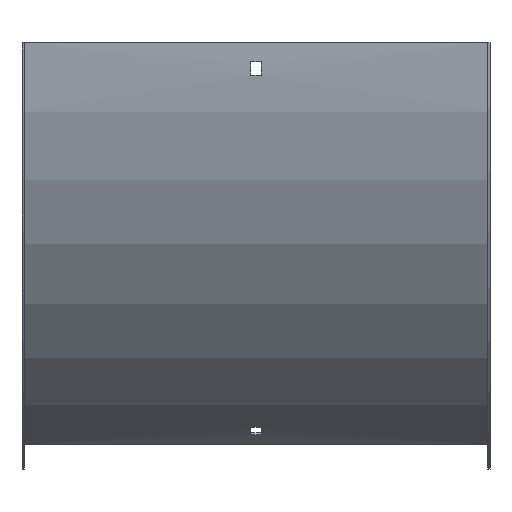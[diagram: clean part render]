
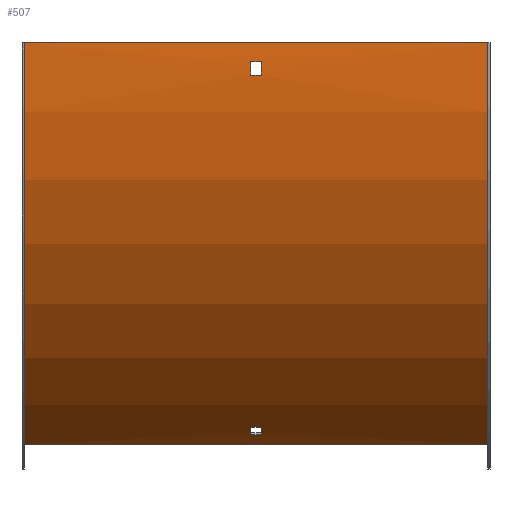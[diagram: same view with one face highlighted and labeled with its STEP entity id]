
A CAD part, front view. The second image highlights one B-rep face of the part: STEP entity #507.
In plain terms, the highlighted cylindrical face has radius 300 mm (diameter 600 mm), a partial arc.
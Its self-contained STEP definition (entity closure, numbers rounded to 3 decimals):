
#1 = CARTESIAN_POINT ( 'NONE',  ( -150., 298.5, 0. ) ) ;
#3 = DIRECTION ( 'NONE',  ( -1., 0., 0. ) ) ;
#4 = VERTEX_POINT ( 'NONE', #452 ) ;
#12 = VERTEX_POINT ( 'NONE', #486 ) ;
#14 = ORIENTED_EDGE ( 'NONE', *, *, #117, .F. ) ;
#25 = DIRECTION ( 'NONE',  ( -1., 0., 0. ) ) ;
#31 = EDGE_LOOP ( 'NONE', ( #102, #380, #414, #484 ) ) ;
#37 = VECTOR ( 'NONE', #189, 1000. ) ;
#41 = DIRECTION ( 'NONE',  ( -1., 0., 0. ) ) ;
#44 = CIRCLE ( 'NONE', #594, 300. ) ;
#45 = CIRCLE ( 'NONE', #465, 300. ) ;
#56 = ORIENTED_EDGE ( 'NONE', *, *, #490, .F. ) ;
#67 = LINE ( 'NONE', #299, #356 ) ;
#73 = DIRECTION ( 'NONE',  ( 0., 0., 1. ) ) ;
#86 = VECTOR ( 'NONE', #41, 1000. ) ;
#88 = CARTESIAN_POINT ( 'NONE',  ( 150., 148.5, -259.808 ) ) ;
#89 = CARTESIAN_POINT ( 'NONE',  ( -3.25, 298.5, 0. ) ) ;
#92 = CARTESIAN_POINT ( 'NONE',  ( 3.25, 138.228, -253.6 ) ) ;
#102 = ORIENTED_EDGE ( 'NONE', *, *, #466, .T. ) ;
#106 = CARTESIAN_POINT ( 'NONE',  ( -3.25, 130.681, -248.67 ) ) ;
#115 = CYLINDRICAL_SURFACE ( 'NONE', #395, 300. ) ;
#117 = EDGE_CURVE ( 'NONE', #192, #390, #535, .T. ) ;
#122 = DIRECTION ( 'NONE',  ( 0., 1., 0. ) ) ;
#130 = AXIS2_PLACEMENT_3D ( 'NONE', #1, #3, #468 ) ;
#132 = VERTEX_POINT ( 'NONE', #92 ) ;
#136 = AXIS2_PLACEMENT_3D ( 'NONE', #89, #498, #398 ) ;
#137 = EDGE_CURVE ( 'NONE', #426, #390, #512, .T. ) ;
#154 = ORIENTED_EDGE ( 'NONE', *, *, #496, .T. ) ;
#158 = CARTESIAN_POINT ( 'NONE',  ( -3.25, -0.764, -21. ) ) ;
#173 = VERTEX_POINT ( 'NONE', #88 ) ;
#174 = FACE_BOUND ( 'NONE', #31, .T. ) ;
#178 = CARTESIAN_POINT ( 'NONE',  ( 151.5, 138.228, -253.6 ) ) ;
#189 = DIRECTION ( 'NONE',  ( 1., 0., 0. ) ) ;
#192 = VERTEX_POINT ( 'NONE', #311 ) ;
#195 = VECTOR ( 'NONE', #377, 1000. ) ;
#196 = ORIENTED_EDGE ( 'NONE', *, *, #343, .F. ) ;
#197 = EDGE_CURVE ( 'NONE', #603, #533, #461, .T. ) ;
#200 = EDGE_CURVE ( 'NONE', #421, #603, #510, .T. ) ;
#218 = CARTESIAN_POINT ( 'NONE',  ( 150., 298.5, 0. ) ) ;
#220 = DIRECTION ( 'NONE',  ( 0., 0., 1. ) ) ;
#226 = CARTESIAN_POINT ( 'NONE',  ( 150., -1.5, 0. ) ) ;
#234 = AXIS2_PLACEMENT_3D ( 'NONE', #544, #459, #122 ) ;
#238 = CARTESIAN_POINT ( 'NONE',  ( 3.25, -1.26, -12. ) ) ;
#265 = LINE ( 'NONE', #178, #86 ) ;
#267 = DIRECTION ( 'NONE',  ( 1., 0., 0. ) ) ;
#272 = DIRECTION ( 'NONE',  ( -1., 0., 0. ) ) ;
#275 = CARTESIAN_POINT ( 'NONE',  ( 151.5, -1.26, -12. ) ) ;
#281 = ORIENTED_EDGE ( 'NONE', *, *, #326, .F. ) ;
#282 = EDGE_CURVE ( 'NONE', #12, #328, #45, .T. ) ;
#288 = CIRCLE ( 'NONE', #136, 300. ) ;
#299 = CARTESIAN_POINT ( 'NONE',  ( 150., 148.5, -259.808 ) ) ;
#304 = CARTESIAN_POINT ( 'NONE',  ( -3.25, 138.228, -253.6 ) ) ;
#310 = FACE_OUTER_BOUND ( 'NONE', #550, .T. ) ;
#311 = CARTESIAN_POINT ( 'NONE',  ( -150., 148.5, -259.808 ) ) ;
#312 = DIRECTION ( 'NONE',  ( -1., 0., 0. ) ) ;
#326 = EDGE_CURVE ( 'NONE', #328, #4, #370, .T. ) ;
#328 = VERTEX_POINT ( 'NONE', #238 ) ;
#343 = EDGE_CURVE ( 'NONE', #499, #12, #419, .T. ) ;
#355 = DIRECTION ( 'NONE',  ( 1., 0., 0. ) ) ;
#356 = VECTOR ( 'NONE', #543, 1000. ) ;
#358 = VECTOR ( 'NONE', #272, 1000. ) ;
#370 = LINE ( 'NONE', #275, #195 ) ;
#377 = DIRECTION ( 'NONE',  ( -1., 0., 0. ) ) ;
#380 = ORIENTED_EDGE ( 'NONE', *, *, #200, .T. ) ;
#384 = ORIENTED_EDGE ( 'NONE', *, *, #282, .F. ) ;
#390 = VERTEX_POINT ( 'NONE', #576 ) ;
#395 = AXIS2_PLACEMENT_3D ( 'NONE', #551, #546, #494 ) ;
#398 = DIRECTION ( 'NONE',  ( 0., 0., 1. ) ) ;
#399 = ORIENTED_EDGE ( 'NONE', *, *, #575, .F. ) ;
#403 = FACE_BOUND ( 'NONE', #472, .T. ) ;
#414 = ORIENTED_EDGE ( 'NONE', *, *, #197, .T. ) ;
#416 = CIRCLE ( 'NONE', #425, 300. ) ;
#419 = LINE ( 'NONE', #569, #37 ) ;
#421 = VERTEX_POINT ( 'NONE', #304 ) ;
#425 = AXIS2_PLACEMENT_3D ( 'NONE', #218, #25, #220 ) ;
#426 = VERTEX_POINT ( 'NONE', #448 ) ;
#429 = ORIENTED_EDGE ( 'NONE', *, *, #137, .T. ) ;
#439 = EDGE_CURVE ( 'NONE', #533, #132, #44, .T. ) ;
#448 = CARTESIAN_POINT ( 'NONE',  ( 150., -1.5, 0. ) ) ;
#451 = CARTESIAN_POINT ( 'NONE',  ( 3.25, 298.5, 0. ) ) ;
#452 = CARTESIAN_POINT ( 'NONE',  ( -3.25, -1.26, -12. ) ) ;
#455 = CARTESIAN_POINT ( 'NONE',  ( 3.25, 298.5, 0. ) ) ;
#459 = DIRECTION ( 'NONE',  ( -1., 0., 0. ) ) ;
#461 = LINE ( 'NONE', #555, #531 ) ;
#465 = AXIS2_PLACEMENT_3D ( 'NONE', #455, #312, #497 ) ;
#466 = EDGE_CURVE ( 'NONE', #132, #421, #265, .T. ) ;
#468 = DIRECTION ( 'NONE',  ( 0., 0., 1. ) ) ;
#472 = EDGE_LOOP ( 'NONE', ( #56, #281, #384, #196 ) ) ;
#484 = ORIENTED_EDGE ( 'NONE', *, *, #439, .T. ) ;
#486 = CARTESIAN_POINT ( 'NONE',  ( 3.25, -0.764, -21. ) ) ;
#490 = EDGE_CURVE ( 'NONE', #4, #499, #288, .T. ) ;
#494 = DIRECTION ( 'NONE',  ( 0., 0., 1. ) ) ;
#496 = EDGE_CURVE ( 'NONE', #173, #426, #416, .T. ) ;
#497 = DIRECTION ( 'NONE',  ( 0., 0., -1. ) ) ;
#498 = DIRECTION ( 'NONE',  ( 1., 0., 0. ) ) ;
#499 = VERTEX_POINT ( 'NONE', #158 ) ;
#506 = CARTESIAN_POINT ( 'NONE',  ( 3.25, 130.681, -248.67 ) ) ;
#507 = ADVANCED_FACE ( 'NONE', ( #403, #310, #174 ), #115, .T. ) ;
#510 = CIRCLE ( 'NONE', #234, 300. ) ;
#512 = LINE ( 'NONE', #226, #358 ) ;
#531 = VECTOR ( 'NONE', #267, 1000. ) ;
#533 = VERTEX_POINT ( 'NONE', #506 ) ;
#535 = CIRCLE ( 'NONE', #130, 300. ) ;
#543 = DIRECTION ( 'NONE',  ( -1., 0., 0. ) ) ;
#544 = CARTESIAN_POINT ( 'NONE',  ( -3.25, 298.5, 0. ) ) ;
#546 = DIRECTION ( 'NONE',  ( -1., 0., 0. ) ) ;
#550 = EDGE_LOOP ( 'NONE', ( #14, #399, #154, #429 ) ) ;
#551 = CARTESIAN_POINT ( 'NONE',  ( 151.5, 298.5, 0. ) ) ;
#555 = CARTESIAN_POINT ( 'NONE',  ( 151.5, 130.681, -248.67 ) ) ;
#569 = CARTESIAN_POINT ( 'NONE',  ( 151.5, -0.764, -21. ) ) ;
#575 = EDGE_CURVE ( 'NONE', #173, #192, #67, .T. ) ;
#576 = CARTESIAN_POINT ( 'NONE',  ( -150., -1.5, 0. ) ) ;
#594 = AXIS2_PLACEMENT_3D ( 'NONE', #451, #355, #73 ) ;
#603 = VERTEX_POINT ( 'NONE', #106 ) ;
